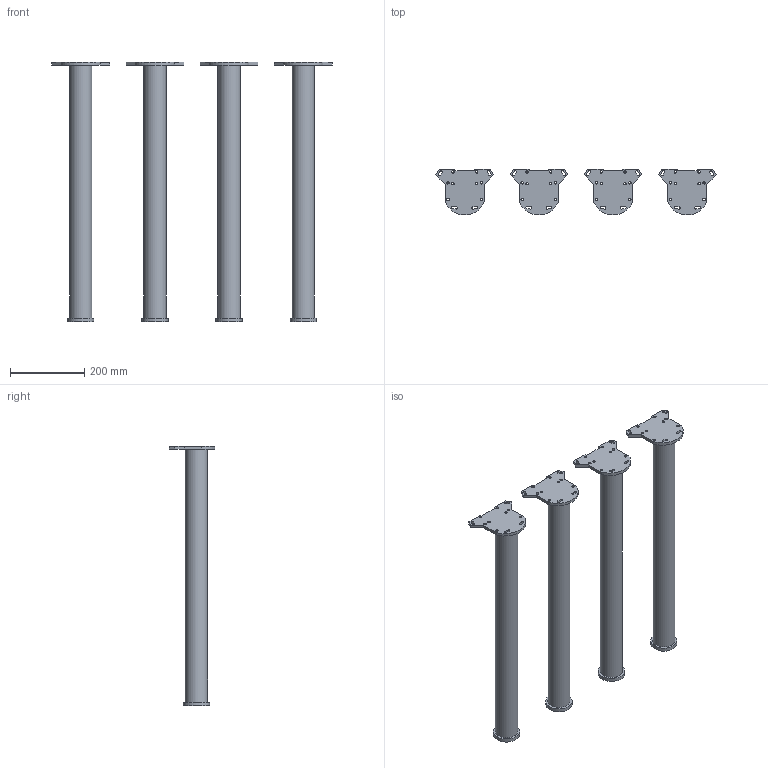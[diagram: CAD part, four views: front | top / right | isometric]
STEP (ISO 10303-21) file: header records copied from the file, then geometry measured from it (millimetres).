
FILE_DESCRIPTION( ( 'STEP AP214' ), '1' );
FILE_NAME( 'D:/Yug/2021/Desk_and_office_organisation/Correction in table leg fixing/QC/70147.stp', '2021-08-10T12:45:08', ( '' ), ( '' ), ' ', 'PARTsolutions', ' ' );
FILE_SCHEMA( ( 'AUTOMOTIVE_DESIGN { 1 0 10303 214 1 1 1 1 }' ) );
Length unit declared in the file: millimetre
Products named in the file (2): 70147; _70147_1
Assembly tree (4 placements, depth 2):
  70147
    _70147_1  x4
Bounding box: 755.69 x 124 x 700 mm (x, y, z)
Volume: 8270819.5 mm3; surface area: 657542.9 mm2
Topology: 4 solids, 4 shells, 168 faces, 456 edges, 304 vertices
Faces by surface type: plane 92, cylinder 76
Full cylindrical faces by diameter (mm): 6.5 x32, 60 x4, 71 x4
Entity records: 1732 total; most frequent: DIRECTION 236, CARTESIAN_POINT 227, ORIENTED_EDGE 208, EDGE_CURVE 104, AXIS2_PLACEMENT_3D 85, EDGE_LOOP 78, VERTEX_POINT 76, LINE 66
